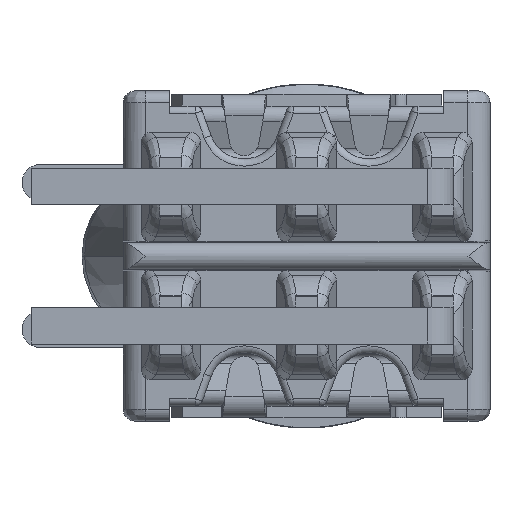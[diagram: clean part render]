
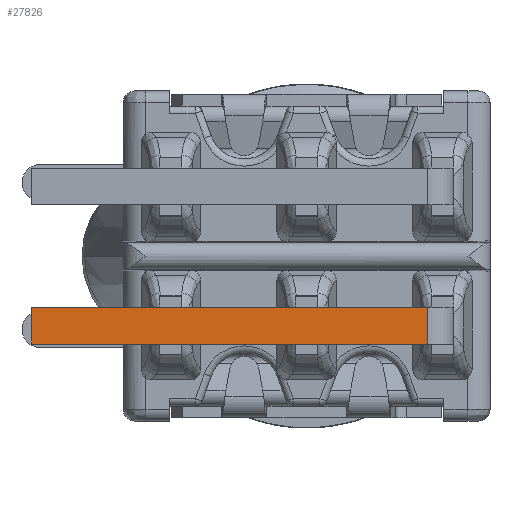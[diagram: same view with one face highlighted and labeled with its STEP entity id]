
A CAD part, front view. The second image highlights one B-rep face of the part: STEP entity #27826.
In plain terms, the highlighted planar face has unit normal (0, -1, 0).
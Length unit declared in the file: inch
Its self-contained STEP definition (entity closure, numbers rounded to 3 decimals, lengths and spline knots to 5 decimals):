
#7255=DIRECTION('',(-1.,0.,0.));
#7256=VECTOR('',#7255,0.54);
#7257=CARTESIAN_POINT('',(0.165,-0.62175,-0.07));
#7258=LINE('',#7257,#7256);
#7272=DIRECTION('',(0.,0.,1.));
#7273=VECTOR('',#7272,0.05);
#7274=CARTESIAN_POINT('',(0.165,-0.62175,-0.12));
#7275=LINE('',#7274,#7273);
#7276=DIRECTION('',(-1.,0.,0.));
#7277=VECTOR('',#7276,0.54);
#7278=CARTESIAN_POINT('',(0.165,-0.62175,-0.12));
#7279=LINE('',#7278,#7277);
#7284=DIRECTION('',(0.,0.,1.));
#7285=VECTOR('',#7284,0.05);
#7286=CARTESIAN_POINT('',(-0.375,-0.62175,-0.12));
#7287=LINE('',#7286,#7285);
#20752=CARTESIAN_POINT('',(0.165,-0.62175,-0.12));
#20753=CARTESIAN_POINT('',(0.165,-0.62175,-0.07));
#20754=VERTEX_POINT('',#20752);
#20755=VERTEX_POINT('',#20753);
#20756=CARTESIAN_POINT('',(-0.375,-0.62175,-0.07));
#20758=VERTEX_POINT('',#20756);
#20762=CARTESIAN_POINT('',(-0.375,-0.62175,-0.12));
#20763=VERTEX_POINT('',#20762);
#27814=CARTESIAN_POINT('',(0.165,-0.62175,-0.12));
#27815=DIRECTION('',(0.,-1.,0.));
#27816=DIRECTION('',(0.,0.,1.));
#27817=AXIS2_PLACEMENT_3D('',#27814,#27815,#27816);
#27818=PLANE('',#27817);
#27819=ORIENTED_EDGE('',*,*,#27808,.F.);
#27820=ORIENTED_EDGE('',*,*,#27743,.T.);
#27822=ORIENTED_EDGE('',*,*,#27821,.T.);
#27823=ORIENTED_EDGE('',*,*,#27786,.F.);
#27824=EDGE_LOOP('',(#27819,#27820,#27822,#27823));
#27825=FACE_OUTER_BOUND('',#27824,.F.);
#27826=ADVANCED_FACE('',(#27825),#27818,.T.);
#27743=EDGE_CURVE('',#20754,#20763,#7279,.T.);
#27786=EDGE_CURVE('',#20755,#20758,#7258,.T.);
#27808=EDGE_CURVE('',#20754,#20755,#7275,.T.);
#27821=EDGE_CURVE('',#20763,#20758,#7287,.T.);
